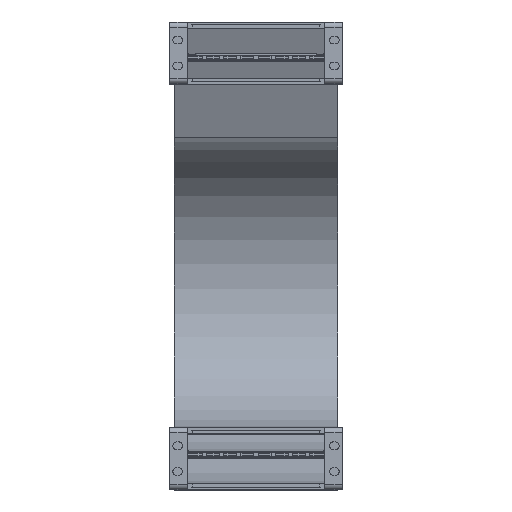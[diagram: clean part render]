
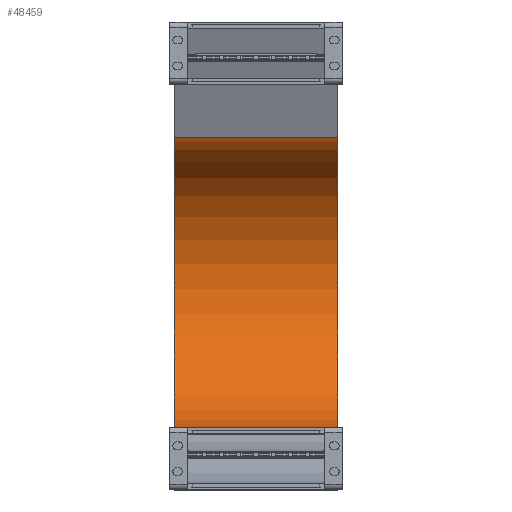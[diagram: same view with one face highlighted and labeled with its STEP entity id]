
A CAD part, top view. The second image highlights one B-rep face of the part: STEP entity #48459.
In plain terms, the highlighted cylindrical face has radius 84.5 mm (diameter 169 mm), a partial arc.
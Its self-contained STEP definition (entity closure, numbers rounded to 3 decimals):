
#47611=DIRECTION('',(-1.,0.,0.));
#47612=VECTOR('',#47611,95.);
#47613=CARTESIAN_POINT('',(47.5,36.,-400.));
#47614=LINE('',#47613,#47612);
#47625=DIRECTION('',(-1.,0.,0.));
#47626=VECTOR('',#47625,95.);
#47627=CARTESIAN_POINT('',(47.5,204.681,-407.334));
#47628=LINE('',#47627,#47626);
#47632=CARTESIAN_POINT('',(47.5,120.5,-400.));
#47633=DIRECTION('',(-1.,0.,0.));
#47634=DIRECTION('',(0.,0.996,-0.087));
#47635=AXIS2_PLACEMENT_3D('',#47632,#47633,#47634);
#47711=CARTESIAN_POINT('',(-47.5,120.5,-400.));
#47712=DIRECTION('',(-1.,0.,0.));
#47713=DIRECTION('',(0.,0.996,-0.087));
#47714=AXIS2_PLACEMENT_3D('',#47711,#47712,#47713);
#47833=CARTESIAN_POINT('',(47.5,204.681,-407.334));
#47834=CARTESIAN_POINT('',(-47.5,204.681,-407.334));
#47835=VERTEX_POINT('',#47833);
#47836=VERTEX_POINT('',#47834);
#47857=CARTESIAN_POINT('',(47.5,36.,-400.));
#47858=CARTESIAN_POINT('',(-47.5,36.,-400.));
#47859=VERTEX_POINT('',#47857);
#47860=VERTEX_POINT('',#47858);
#48445=CARTESIAN_POINT('',(1.,120.5,-400.));
#48446=DIRECTION('',(-1.,0.,0.));
#48447=DIRECTION('',(0.,-0.996,0.087));
#48448=AXIS2_PLACEMENT_3D('',#48445,#48446,#48447);
#48449=CYLINDRICAL_SURFACE('',#48448,84.5);
#48451=ORIENTED_EDGE('',*,*,#48450,.F.);
#48453=ORIENTED_EDGE('',*,*,#48452,.T.);
#48454=ORIENTED_EDGE('',*,*,#48428,.T.);
#48456=ORIENTED_EDGE('',*,*,#48455,.F.);
#48457=EDGE_LOOP('',(#48451,#48453,#48454,#48456));
#48458=FACE_OUTER_BOUND('',#48457,.F.);
#47636=CIRCLE('',#47635,84.5);
#47715=CIRCLE('',#47714,84.5);
#48428=EDGE_CURVE('',#47859,#47860,#47614,.T.);
#48450=EDGE_CURVE('',#47835,#47836,#47628,.T.);
#48452=EDGE_CURVE('',#47835,#47859,#47636,.T.);
#48455=EDGE_CURVE('',#47836,#47860,#47715,.T.);
#48459=ADVANCED_FACE('',(#48458),#48449,.F.);
